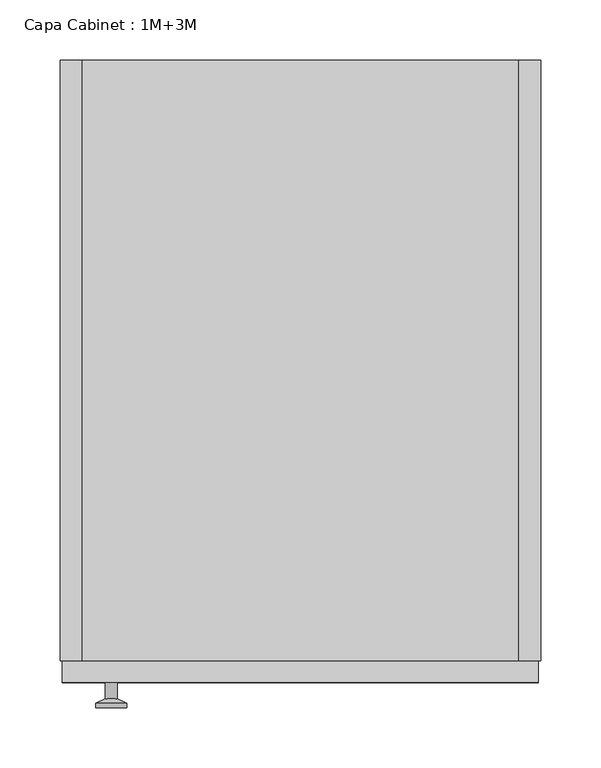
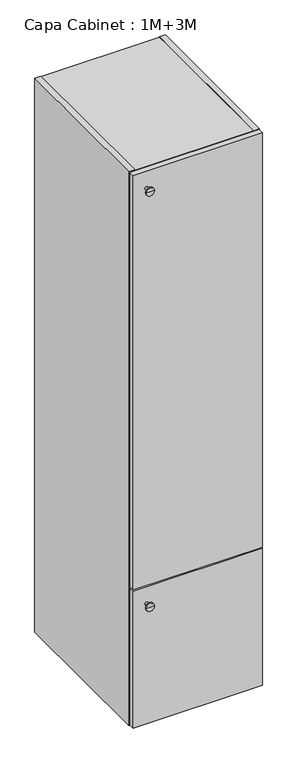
"""IFC4 building model written with IfcOpenShell, lengths in millimetres: furniture geometry, Capa Cabinet : 1M+3M."""

from ifc_helpers import new_model, si_unit, frame, origin, place, context, project, spatial, polyline, circle_curve, outline, extrude, faceted_brep, source, transform, mapped, element, save
from ifc_brep_helpers import plane_surface, cylinder_surface, revolved_surface, advanced_brep


def capa_cabinet_1m_3m_131b9e61(model_context):
    return source(origin(), model_context, "Body", "SolidModel", [
        extrude(outline(polyline([(182.0, 0.0), (-182.0, 0.0), (-182.0, 490.0), (182.0, 490.0), (182.0, 0.0)])), frame((0.0, 0.0, 1337.0), z_axis=(0.0, 0.0, 1.0), x_axis=(1.0, 0.0, 0.0)), (0.0, 0.0, 1.0), 14.0),
        extrude(outline(polyline([(182.0, 0.0), (-182.0, 0.0), (-182.0, 490.0), (182.0, 490.0), (182.0, 0.0)])), frame((0.0, 0.0, 889.0), z_axis=(0.0, 0.0, 1.0), x_axis=(1.0, 0.0, 0.0)), (0.0, 0.0, 1.0), 14.0),
        extrude(outline(polyline([(182.0, 0.0), (-182.0, 0.0), (-182.0, 490.0), (182.0, 490.0), (182.0, 0.0)])), frame((0.0, 0.0, 441.0), z_axis=(0.0, 0.0, 1.0), x_axis=(1.0, 0.0, 0.0)), (0.0, 0.0, 1.0), 14.0),
        faceted_brep([(-182.0, 500.0, 1792.0), (-182.0, 500.0, 1791.0), (182.0, 500.0, 1791.0), (182.0, 500.0, 1792.0), (200.0, 500.0, 1792.0), (200.0, 500.0, 0.0), (182.0, 500.0, 0.0), (182.0, 500.0, 1.0), (-182.0, 500.0, 1.0), (-182.0, 500.0, 0.0), (-200.0, 500.0, 0.0), (-200.0, 500.0, 1792.0), (182.0, 490.0, 19.0), (182.0, 490.0, 1773.0), (-182.0, 490.0, 1773.0), (-182.0, 490.0, 19.0), (-182.0, 0.0, 1792.0), (-200.0, 0.0, 1792.0), (-200.0, 0.0, 0.0), (-182.0, 0.0, 0.0), (-182.0, 0.0, 1.0), (182.0, 0.0, 1.0), (182.0, 0.0, 0.0), (200.0, 0.0, 0.0), (200.0, 0.0, 1792.0), (182.0, 0.0, 1792.0), (182.0, 0.0, 1791.0), (-182.0, 0.0, 1791.0), (182.0, 0.0, 1773.0), (182.0, 0.0, 19.0), (-182.0, 0.0, 19.0), (-182.0, 0.0, 1773.0)], [[[0, 1, 2, 3, 4, 5, 6, 7, 8, 9, 10, 11]], [[12, 13, 14, 15]], [[16, 17, 18, 19, 20, 21, 22, 23, 24, 25, 26, 27], [28, 29, 30, 31]], [[17, 16, 0, 11]], [[18, 17, 11, 10]], [[23, 22, 6, 5]], [[24, 23, 5, 4]], [[19, 18, 10, 9]], [[20, 19, 9, 8]], [[21, 20, 8, 7]], [[22, 21, 7, 6]], [[25, 24, 4, 3]], [[26, 25, 3, 2]], [[27, 26, 2, 1]], [[16, 27, 1, 0]], [[29, 28, 13, 12]], [[30, 29, 12, 15]], [[31, 30, 15, 14]], [[28, 31, 14, 13]]]),
        extrude(outline(polyline([(198.0, -18.0), (-198.0, -18.0), (-198.0, 0.0), (198.0, 0.0), (198.0, -18.0)])), frame((0.0, 0.0, 450.0), z_axis=(0.0, 0.0, 1.0), x_axis=(1.0, 0.0, 0.0)), (0.0, 0.0, 1.0), 1340.0),
        advanced_brep(
        [(-157.2922597, -18.0, 1736.0), (-152.2922597, -18.0, 1736.0), (-162.2922597, -18.0, 1736.0), (-170.2922597, -38.997134, 1736.0), (-144.2922597, -38.997134, 1736.0), (-157.2922597, -38.997134, 1736.0), (-170.2922597, -35.5419417, 1736.0), (-144.2922597, -35.5419417, 1736.0), (-162.2922597, -31.8114804, 1736.0), (-152.2922597, -31.8114804, 1736.0)],
        [
            (0, 1),
            (1, 2, circle_curve(frame((-157.2922597, -18.0, 1736.0), z_axis=(0.0, 1.0, 0.0), x_axis=(1.0, 0.0, 0.0)), 5.0)),
            (2, 0),
            (2, 1, circle_curve(frame((-157.2922597, -18.0, 1736.0), z_axis=(0.0, 1.0, 0.0), x_axis=(1.0, 0.0, 0.0)), 5.0)),
            (3, 4, circle_curve(frame((-157.2922597, -38.997134, 1736.0), z_axis=(0.0, -1.0, 0.0), x_axis=(1.0, 0.0, 0.0)), 13.0)),
            (4, 5),
            (5, 3),
            (4, 3, circle_curve(frame((-157.2922597, -38.997134, 1736.0), z_axis=(0.0, -1.0, 0.0), x_axis=(1.0, 0.0, 0.0)), 13.0)),
            (6, 7, circle_curve(frame((-157.2922597, -35.5419417, 1736.0), z_axis=(0.0, -1.0, 0.0), x_axis=(1.0, 0.0, 0.0)), 13.0)),
            (7, 4),
            (3, 6),
            (7, 6, circle_curve(frame((-157.2922597, -35.5419417, 1736.0), z_axis=(0.0, -1.0, 0.0), x_axis=(1.0, 0.0, 0.0)), 13.0)),
            (8, 9, circle_curve(frame((-157.2922597, -31.8114804, 1736.0), z_axis=(0.0, -1.0, 0.0), x_axis=(1.0, 0.0, 0.0)), 5.0)),
            (9, 7),
            (6, 8),
            (9, 8, circle_curve(frame((-157.2922597, -31.8114804, 1736.0), z_axis=(0.0, -1.0, 0.0), x_axis=(1.0, 0.0, 0.0)), 5.0)),
            (1, 9),
            (8, 2),
        ],
        [
            plane_surface(frame((-157.2922597, -18.0, 1736.0), z_axis=(0.0, 1.0, 0.0), x_axis=(1.0, 0.0, 0.0))),
            plane_surface(frame((-157.2922597, -38.997134, 1736.0), z_axis=(0.0, -1.0, 0.0), x_axis=(1.0, 0.0, 0.0))),
            cylinder_surface(frame((-157.2922597, -38.997134, 1736.0), z_axis=(0.0, 1.0, 0.0), x_axis=(1.0, 0.0, 0.0)), 13.0),
            revolved_surface(polyline([(-144.2922597, -35.5419417, 1736.0), (-152.2922597, -31.8114804, 1736.0)]), (-157.2922597, -38.997134, 1736.0), (0.0, 1.0, 0.0)),
            cylinder_surface(frame((-157.2922597, -38.997134, 1736.0), z_axis=(0.0, 1.0, 0.0), x_axis=(1.0, 0.0, 0.0)), 5.0),
        ],
        [
            (0, [[1, 2, 3]]),
            (0, [[-3, 4, -1]]),
            (1, [[5, 6, 7]]),
            (1, [[8, -7, -6]]),
            (2, [[9, 10, -5, 11]]),
            (2, [[12, -11, -8, -10]]),
            (3, [[13, 14, -9, 15]]),
            (3, [[16, -15, -12, -14]]),
            (4, [[-2, 17, -13, 18]]),
            (4, [[-4, -18, -16, -17]]),
        ],
    ),
        extrude(outline(polyline([(198.0, -18.0), (-198.0, -18.0), (-198.0, 0.0), (198.0, 0.0), (198.0, -18.0)])), frame((0.0, 0.0, 2.0), z_axis=(0.0, 0.0, 1.0), x_axis=(1.0, 0.0, 0.0)), (0.0, 0.0, 1.0), 444.0),
        advanced_brep(
        [(-157.2922597, -18.0, 392.0), (-152.2922597, -18.0, 392.0), (-162.2922597, -18.0, 392.0), (-170.2922597, -38.997134, 392.0), (-144.2922597, -38.997134, 392.0), (-157.2922597, -38.997134, 392.0), (-170.2922597, -35.5419417, 392.0), (-144.2922597, -35.5419417, 392.0), (-162.2922597, -31.8114804, 392.0), (-152.2922597, -31.8114804, 392.0)],
        [
            (0, 1),
            (1, 2, circle_curve(frame((-157.2922597, -18.0, 392.0), z_axis=(0.0, 1.0, 0.0), x_axis=(1.0, 0.0, 0.0)), 5.0)),
            (2, 0),
            (2, 1, circle_curve(frame((-157.2922597, -18.0, 392.0), z_axis=(0.0, 1.0, 0.0), x_axis=(1.0, 0.0, 0.0)), 5.0)),
            (3, 4, circle_curve(frame((-157.2922597, -38.997134, 392.0), z_axis=(0.0, -1.0, 0.0), x_axis=(1.0, 0.0, 0.0)), 13.0)),
            (4, 5),
            (5, 3),
            (4, 3, circle_curve(frame((-157.2922597, -38.997134, 392.0), z_axis=(0.0, -1.0, 0.0), x_axis=(1.0, 0.0, 0.0)), 13.0)),
            (6, 7, circle_curve(frame((-157.2922597, -35.5419417, 392.0), z_axis=(0.0, -1.0, 0.0), x_axis=(1.0, 0.0, 0.0)), 13.0)),
            (7, 4),
            (3, 6),
            (7, 6, circle_curve(frame((-157.2922597, -35.5419417, 392.0), z_axis=(0.0, -1.0, 0.0), x_axis=(1.0, 0.0, 0.0)), 13.0)),
            (8, 9, circle_curve(frame((-157.2922597, -31.8114804, 392.0), z_axis=(0.0, -1.0, 0.0), x_axis=(1.0, 0.0, 0.0)), 5.0)),
            (9, 7),
            (6, 8),
            (9, 8, circle_curve(frame((-157.2922597, -31.8114804, 392.0), z_axis=(0.0, -1.0, 0.0), x_axis=(1.0, 0.0, 0.0)), 5.0)),
            (1, 9),
            (8, 2),
        ],
        [
            plane_surface(frame((-157.2922597, -18.0, 392.0), z_axis=(0.0, 1.0, 0.0), x_axis=(1.0, 0.0, 0.0))),
            plane_surface(frame((-157.2922597, -38.997134, 392.0), z_axis=(0.0, -1.0, 0.0), x_axis=(1.0, 0.0, 0.0))),
            cylinder_surface(frame((-157.2922597, -38.997134, 392.0), z_axis=(0.0, 1.0, 0.0), x_axis=(1.0, 0.0, 0.0)), 13.0),
            revolved_surface(polyline([(-144.2922597, -35.5419417, 392.0), (-152.2922597, -31.8114804, 392.0)]), (-157.2922597, -38.997134, 392.0), (0.0, 1.0, 0.0)),
            cylinder_surface(frame((-157.2922597, -38.997134, 392.0), z_axis=(0.0, 1.0, 0.0), x_axis=(1.0, 0.0, 0.0)), 5.0),
        ],
        [
            (0, [[1, 2, 3]]),
            (0, [[-3, 4, -1]]),
            (1, [[5, 6, 7]]),
            (1, [[8, -7, -6]]),
            (2, [[9, 10, -5, 11]]),
            (2, [[12, -11, -8, -10]]),
            (3, [[13, 14, -9, 15]]),
            (3, [[16, -15, -12, -14]]),
            (4, [[-2, 17, -13, 18]]),
            (4, [[-4, -18, -16, -17]]),
        ],
    ),
    ])


if __name__ == "__main__":
    model = new_model("IFC4")
    model_context = context("Model", 3, world=origin())
    ifc_project = project(units=[si_unit("LENGTHUNIT", "METRE", prefix="MILLI")], contexts=[model_context])
    site = spatial("IfcSite", under=ifc_project)
    building = spatial("IfcBuilding", under=site)
    placement = place(None, origin())
    capa_cabinet_1m_3m_shape = capa_cabinet_1m_3m_131b9e61(model_context)
    element("IfcFurniture", 1, ObjectType="Capa Cabinet : 1M+3M", at=placement, inside=building, context=model_context, shape_type="MappedRepresentation", body=[
        mapped(capa_cabinet_1m_3m_shape, transform((0.0, 0.0, 0.0), x_axis=(1.0, 0.0, 0.0), y_axis=(0.0, 1.0, 0.0), z_axis=(0.0, 0.0, 1.0))),
    ])
    save(model, "model.ifc")
